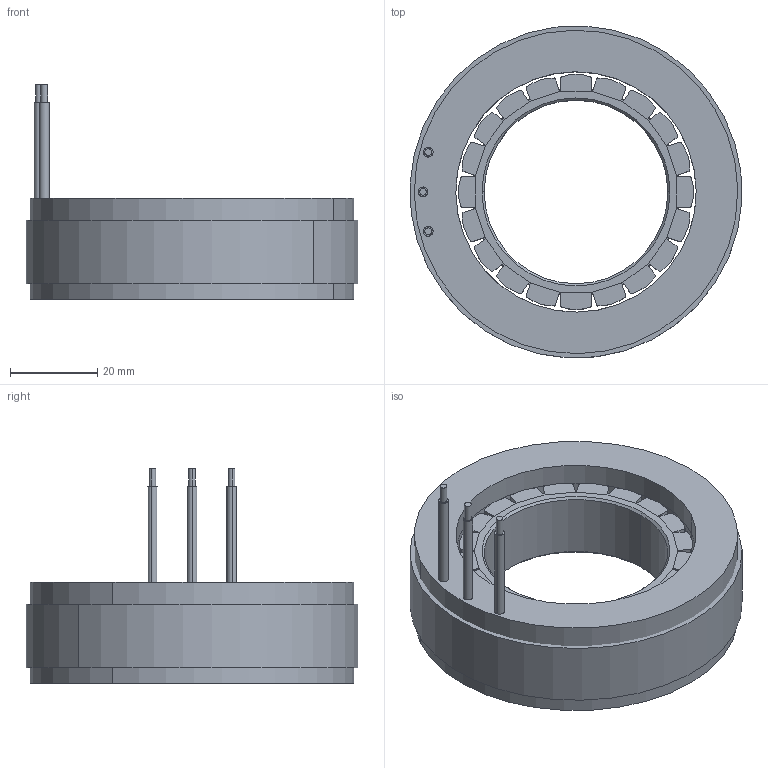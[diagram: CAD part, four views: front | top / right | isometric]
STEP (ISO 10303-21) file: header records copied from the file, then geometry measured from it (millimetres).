
FILE_DESCRIPTION (( 'STEP AP203' ), '1' );
FILE_NAME ('7623µç»ú-ÐÂ.STEP', '2025-02-15T08:43:27', ( '' ), ( '' ), 'SwSTEP 2.0', 'SolidWorks 2023', '' );
FILE_SCHEMA (( 'CONFIG_CONTROL_DESIGN' ));
Length unit declared in the file: millimetre
Products named in the file (1): 7623电机-新
Bounding box: 75.89 x 75.89 x 49.1 mm (x, y, z)
Surface area: 28438.8 mm2 (no closed solid volume)
Topology: 0 solids, 27 shells, 163 faces, 891 edges, 740 vertices
Faces by surface type: plane 94, cylinder 65, cone 4
Entity records: 8858 total; most frequent: CARTESIAN_POINT 1795, DIRECTION 1539, ORIENTED_EDGE 1166, EDGE_CURVE 891, VERTEX_POINT 740, LINE 571, VECTOR 571, AXIS2_PLACEMENT_3D 484
